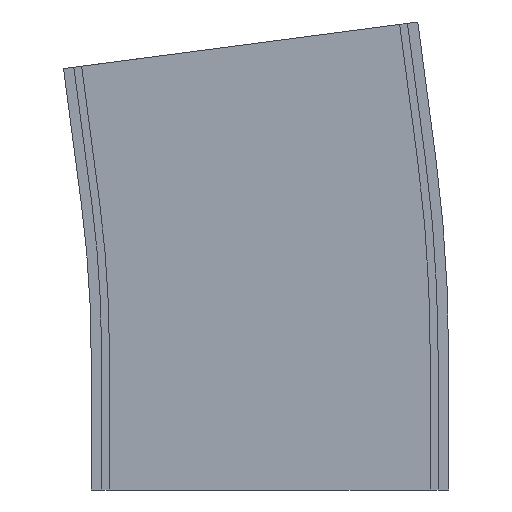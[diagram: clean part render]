
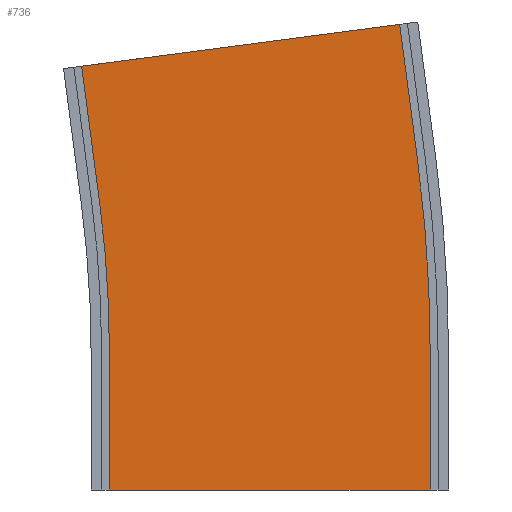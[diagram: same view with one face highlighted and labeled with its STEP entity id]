
A CAD part, left-side view. The second image highlights one B-rep face of the part: STEP entity #736.
In plain terms, the highlighted planar face has unit normal (-1, 0, 0).
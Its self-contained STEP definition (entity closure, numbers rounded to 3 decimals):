
#38 = DIRECTION ( 'NONE',  ( 0., 0., 1. ) ) ;
#46 = ORIENTED_EDGE ( 'NONE', *, *, #727, .T. ) ;
#52 = CARTESIAN_POINT ( 'NONE',  ( -325.25, 61.25, 0. ) ) ;
#67 = VECTOR ( 'NONE', #963, 1000. ) ;
#80 = AXIS2_PLACEMENT_3D ( 'NONE', #697, #149, #38 ) ;
#96 = CARTESIAN_POINT ( 'NONE',  ( -325.25, 61.25, 52.5 ) ) ;
#118 = EDGE_CURVE ( 'NONE', #857, #1009, #549, .T. ) ;
#149 = DIRECTION ( 'NONE',  ( -1., 0., 0. ) ) ;
#169 = VECTOR ( 'NONE', #1308, 1000. ) ;
#179 = LINE ( 'NONE', #511, #67 ) ;
#237 = AXIS2_PLACEMENT_3D ( 'NONE', #400, #1070, #1169 ) ;
#239 = VECTOR ( 'NONE', #1102, 1000. ) ;
#262 = EDGE_CURVE ( 'NONE', #1101, #857, #179, .T. ) ;
#293 = EDGE_LOOP ( 'NONE', ( #390, #429, #46, #1330, #1177, #415, #898, #823 ) ) ;
#306 = LINE ( 'NONE', #775, #1278 ) ;
#340 = CARTESIAN_POINT ( 'NONE',  ( -325.25, 61.25, 52.5 ) ) ;
#342 = CARTESIAN_POINT ( 'NONE',  ( -325.25, 65.004, 109.768 ) ) ;
#360 = DIRECTION ( 'NONE',  ( 0., 0., -1. ) ) ;
#390 = ORIENTED_EDGE ( 'NONE', *, *, #705, .T. ) ;
#393 = DIRECTION ( 'NONE',  ( 0., -1., 0. ) ) ;
#400 = CARTESIAN_POINT ( 'NONE',  ( -325.25, 500., 52.5 ) ) ;
#415 = ORIENTED_EDGE ( 'NONE', *, *, #262, .F. ) ;
#429 = ORIENTED_EDGE ( 'NONE', *, *, #1335, .F. ) ;
#500 = CIRCLE ( 'NONE', #237, 438.75 ) ;
#511 = CARTESIAN_POINT ( 'NONE',  ( -325.25, 65.004, 109.768 ) ) ;
#533 = FACE_OUTER_BOUND ( 'NONE', #293, .T. ) ;
#542 = CARTESIAN_POINT ( 'NONE',  ( -325.25, -56.448, 125.758 ) ) ;
#549 = LINE ( 'NONE', #1270, #1058 ) ;
#561 = VERTEX_POINT ( 'NONE', #1273 ) ;
#569 = EDGE_CURVE ( 'NONE', #1066, #1101, #500, .T. ) ;
#697 = CARTESIAN_POINT ( 'NONE',  ( -325.25, 500., 52.5 ) ) ;
#705 = EDGE_CURVE ( 'NONE', #1044, #561, #1156, .T. ) ;
#727 = EDGE_CURVE ( 'NONE', #1212, #1092, #1115, .T. ) ;
#736 = ADVANCED_FACE ( 'NONE', ( #533 ), #1015, .F. ) ;
#740 = DIRECTION ( 'NONE',  ( 0., -0.991, 0.131 ) ) ;
#772 = CARTESIAN_POINT ( 'NONE',  ( -325.25, -61.25, 52.5 ) ) ;
#775 = CARTESIAN_POINT ( 'NONE',  ( -325.25, -56.448, 125.758 ) ) ;
#823 = ORIENTED_EDGE ( 'NONE', *, *, #1366, .T. ) ;
#838 = CARTESIAN_POINT ( 'NONE',  ( -325.25, 71.856, 161.819 ) ) ;
#854 = LINE ( 'NONE', #340, #239 ) ;
#857 = VERTEX_POINT ( 'NONE', #838 ) ;
#898 = ORIENTED_EDGE ( 'NONE', *, *, #569, .F. ) ;
#904 = CARTESIAN_POINT ( 'NONE',  ( -325.25, -61.25, 52.5 ) ) ;
#963 = DIRECTION ( 'NONE',  ( 0., 0.131, 0.991 ) ) ;
#973 = CARTESIAN_POINT ( 'NONE',  ( -325.25, -49.596, 177.809 ) ) ;
#992 = DIRECTION ( 'NONE',  ( 0., 0.131, 0.991 ) ) ;
#1009 = VERTEX_POINT ( 'NONE', #973 ) ;
#1010 = VECTOR ( 'NONE', #393, 1000. ) ;
#1015 = PLANE ( 'NONE',  #1312 ) ;
#1044 = VERTEX_POINT ( 'NONE', #52 ) ;
#1058 = VECTOR ( 'NONE', #740, 1000. ) ;
#1066 = VERTEX_POINT ( 'NONE', #96 ) ;
#1070 = DIRECTION ( 'NONE',  ( -1., 0., 0. ) ) ;
#1085 = EDGE_CURVE ( 'NONE', #1092, #1009, #306, .T. ) ;
#1092 = VERTEX_POINT ( 'NONE', #542 ) ;
#1101 = VERTEX_POINT ( 'NONE', #342 ) ;
#1102 = DIRECTION ( 'NONE',  ( 0., 0., -1. ) ) ;
#1115 = CIRCLE ( 'NONE', #80, 561.25 ) ;
#1119 = DIRECTION ( 'NONE',  ( 1., 0., 0. ) ) ;
#1123 = CARTESIAN_POINT ( 'NONE',  ( -325.25, -61.25, 0. ) ) ;
#1156 = LINE ( 'NONE', #1123, #1010 ) ;
#1169 = DIRECTION ( 'NONE',  ( 0., 0., 1. ) ) ;
#1177 = ORIENTED_EDGE ( 'NONE', *, *, #118, .F. ) ;
#1205 = LINE ( 'NONE', #772, #169 ) ;
#1212 = VERTEX_POINT ( 'NONE', #1326 ) ;
#1270 = CARTESIAN_POINT ( 'NONE',  ( -325.25, -49.596, 177.809 ) ) ;
#1273 = CARTESIAN_POINT ( 'NONE',  ( -325.25, -61.25, 0. ) ) ;
#1278 = VECTOR ( 'NONE', #992, 1000. ) ;
#1308 = DIRECTION ( 'NONE',  ( 0., 0., -1. ) ) ;
#1312 = AXIS2_PLACEMENT_3D ( 'NONE', #904, #1119, #360 ) ;
#1326 = CARTESIAN_POINT ( 'NONE',  ( -325.25, -61.25, 52.5 ) ) ;
#1330 = ORIENTED_EDGE ( 'NONE', *, *, #1085, .T. ) ;
#1335 = EDGE_CURVE ( 'NONE', #1212, #561, #1205, .T. ) ;
#1366 = EDGE_CURVE ( 'NONE', #1066, #1044, #854, .T. ) ;
